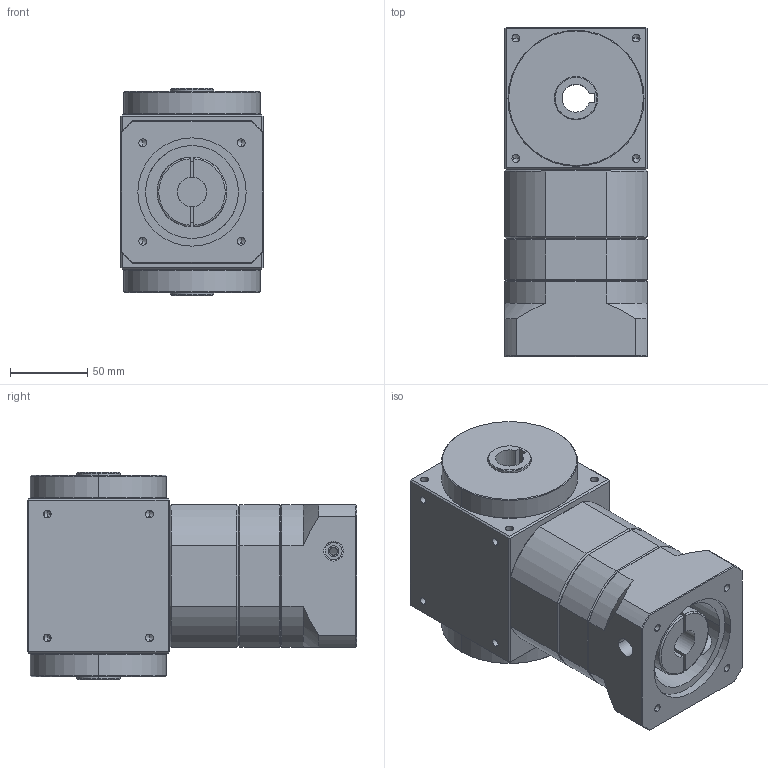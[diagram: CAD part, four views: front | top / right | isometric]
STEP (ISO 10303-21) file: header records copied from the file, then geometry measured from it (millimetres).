
FILE_DESCRIPTION (( 'STEP AP203' ), '1' );
FILE_NAME ('KHT90-H-L2£r70PCD£r90M6.STEP', '2014-03-27T07:37:59', ( 'KELLY' ), ( '' ), 'SwSTEP 2.0', 'SolidWorks 2012', '' );
FILE_SCHEMA (( 'CONFIG_CONTROL_DESIGN' ));
Length unit declared in the file: millimetre
Products named in the file (1): KHT90-H-L2｣r70PCD｣r90M6
Bounding box: 92 x 213 x 134 mm (x, y, z)
Volume: 1825889.7 mm3; surface area: 187409.7 mm2
Topology: 5 solids, 5 shells, 326 faces, 752 edges, 412 vertices
Faces by surface type: cylinder 132, cone 96, plane 94, torus 4
Entity records: 9627 total; most frequent: CARTESIAN_POINT 2537, DIRECTION 1494, ORIENTED_EDGE 1408, EDGE_CURVE 704, AXIS2_PLACEMENT_3D 587, VERTEX_POINT 412, EDGE_LOOP 374, FACE_OUTER_BOUND 326
